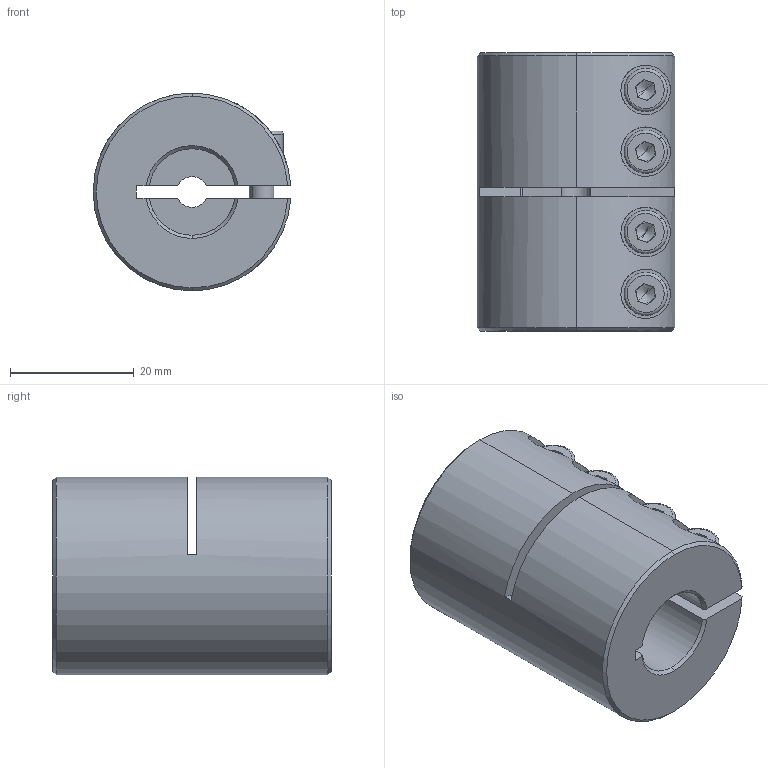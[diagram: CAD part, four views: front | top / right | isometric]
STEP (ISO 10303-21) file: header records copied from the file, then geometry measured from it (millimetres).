
FILE_DESCRIPTION (( 'STEP AP214' ), '1' );
FILE_NAME ('LL-B-D32L45-5-14½¨Ä£.STEP', '2022-07-21T06:24:50', ( '' ), ( '' ), 'SwSTEP 2.0', 'SolidWorks 2022', '' );
FILE_SCHEMA (( 'AUTOMOTIVE_DESIGN' ));
Length unit declared in the file: millimetre
Products named in the file (1): LL-B-D32L45-5-14膘耀
Bounding box: 31.97 x 45 x 32 mm (x, y, z)
Volume: 29903.1 mm3; surface area: 10855 mm2
Topology: 1 solids, 1 shells, 193 faces, 492 edges, 309 vertices
Faces by surface type: plane 88, cylinder 77, cone 20, torus 8
Entity records: 6357 total; most frequent: CARTESIAN_POINT 1583, DIRECTION 1037, ORIENTED_EDGE 968, EDGE_CURVE 484, AXIS2_PLACEMENT_3D 403, VERTEX_POINT 309, VECTOR 231, LINE 231
